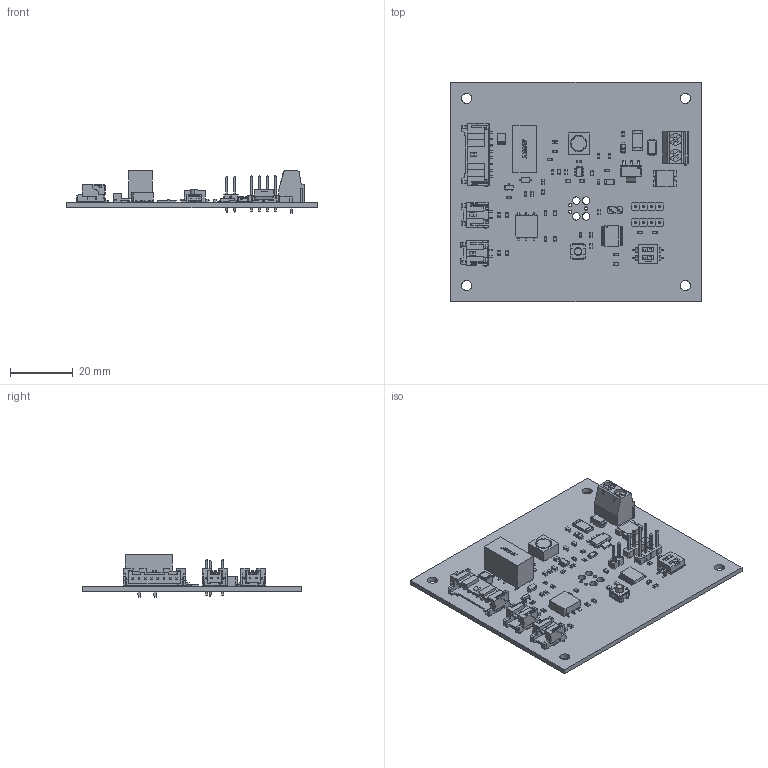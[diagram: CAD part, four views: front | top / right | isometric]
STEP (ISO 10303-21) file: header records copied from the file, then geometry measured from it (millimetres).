
FILE_DESCRIPTION(('KiCad electronic assembly'),'2;1');
FILE_NAME('.step','2026-07-30T15:51:46',('Pcbnew'),('Kicad'), 'Open CASCADE STEP processor 7.9','KiCad to STEP converter','Unknown' );
FILE_SCHEMA(('AUTOMOTIVE_DESIGN { 1 0 10303 214 1 1 1 1 }'));
Length unit declared in the file: millimetre
Products named in the file (70): .step 1; R_0603; AC0603FR-1047KL; C_0603; KEMET_X7R_C0603CCJ; L_44.88mm3_6.8x6.8mm_Bourns_SRR6038-120Y; SRR6038; 77311-118-02LF; 77311-118-02LF.step; 98471_002.step; 77310_Y16.step; R_2512; CRA2512-FZ-R001ELF; M7; 025002-01643-a.testprt; TSSOP-20 [6.4x4.4x1.2,P=0.65]mm; part; SM08B-PASS-TBT; 0ZCF0100AF2A; SOT-223-4; ASSEMBLY; Body; PinsArrayL; FilletPinR; SOT-23-3; SMD-MOSFET-P-CH-60V-900MA_SOT-23_.step; C_1210_TDK_CGA6_2.8mm_Tall; SM02B-PASS-TBT; SM02B-PASS-TBT(LF)(SN); LED_0603; LTST-C194TBKT; EE2-3NUH; IR_TEE2MFS_L15W7.5H10; B5819W; Document; ��1; ��2; SOD-123F; SOD123F step; SOD123F Lead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
Assembly tree (105 placements, depth 5):
  .step 1
    R_0603  x20
      AC0603FR-1047KL
    C_0603  x12
      KEMET_X7R_C0603CCJ
    L_44.88mm3_6.8x6.8mm_Bourns_SRR6038-120Y
      SRR6038
    77311-118-02LF
      77311-118-02LF
        77311-118-02LF.step
          98471_002.step
          77310_Y16.step  x2
    R_2512
      CRA2512-FZ-R001ELF
    M7
      025002-01643-a.testprt
    TSSOP-20 [6.4x4.4x1.2,P=0.65]mm
      part
    SM08B-PASS-TBT
      SM08B-PASS-TBT
    0ZCF0100AF2A
      0ZCF0100AF2A
    SOT-223-4
      ASSEMBLY
        Body
        PinsArrayL
        FilletPinR
    SOT-23-3
      SOT-23-3
        SMD-MOSFET-P-CH-60V-900MA_SOT-23_.step
    C_1210_TDK_CGA6_2.8mm_Tall
      part
    SM02B-PASS-TBT  x2
      SM02B-PASS-TBT(LF)(SN)
    LED_0603  x4
      LTST-C194TBKT
    EE2-3NUH
      IR_TEE2MFS_L15W7.5H10
    B5819W
      Document
        ��1
        ��2
    SOD-123F
      SOD123F step
        SOD123F Lead
        SOD123F lower body
        SOD123F upper body
    R_1206
      User Library-Resistor_1206
        Resistor_1206.STEP
          Pin1Body.STEP
          Pin2Body.STEP
          CeramicBody.STEP
          CoatingBody.STEP
    7914J-1-000
      7914J-1-000E
    1-1825013-0
      C-1-1825013-0
    SOT-23-6
      SI3865DDV-T1-GE3
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Bounding box: 80 x 70 x 13.55 mm (x, y, z)
Volume: 12277.3 mm3; surface area: 17963.8 mm2
Topology: 280 solids, 280 shells, 4578 faces, 11259 edges, 7160 vertices
Faces by surface type: plane 3610, cylinder 820, sphere 110, bspline 18, cone 12, torus 8
Full cylindrical faces by diameter (mm): 0.224 x1, 0.438 x1, 0.889 x3, 0.991 x3, 1.1 x2, 1.15 x8, 1.3 x2, 2.388 x4, 3.2 x4
Entity records: 92688 total; most frequent: CARTESIAN_POINT 15615, ORIENTED_EDGE 13812, DIRECTION 13381, EDGE_CURVE 6906, LINE 5623, VECTOR 5623, VERTEX_POINT 4464, AXIS2_PLACEMENT_3D 3879
